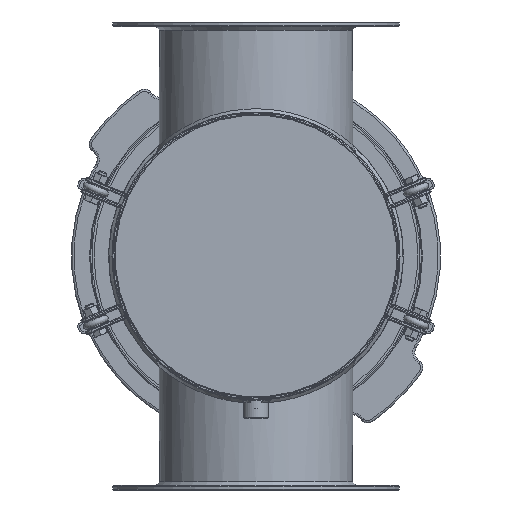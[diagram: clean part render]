
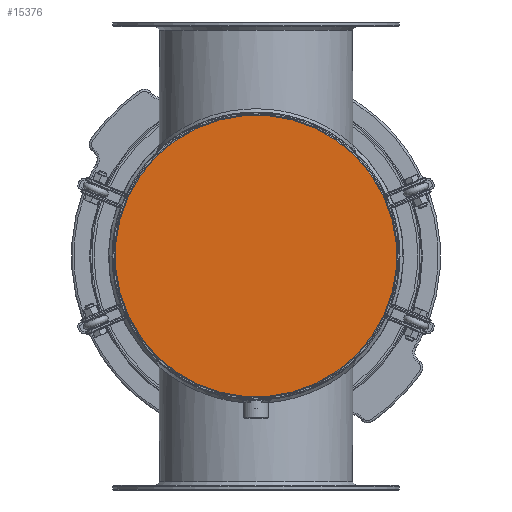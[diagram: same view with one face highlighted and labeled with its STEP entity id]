
A CAD part, front view. The second image highlights one B-rep face of the part: STEP entity #15376.
In plain terms, the highlighted planar face has unit normal (0, -1, 0).
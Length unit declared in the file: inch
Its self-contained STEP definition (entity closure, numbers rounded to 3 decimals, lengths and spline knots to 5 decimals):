
#1468=CIRCLE('',#16496,7.825);
#3141=FACE_OUTER_BOUND('',#4189,.T.);
#4189=EDGE_LOOP('',(#11098));
#7264=VERTEX_POINT('',#28069);
#8680=EDGE_CURVE('',#7264,#7264,#1468,.T.);
#11098=ORIENTED_EDGE('',*,*,#8680,.F.);
#15013=PLANE('',#16499);
#15376=ADVANCED_FACE('',(#3141),#15013,.F.);
#16496=AXIS2_PLACEMENT_3D('',#28070,#18983,#18984);
#16499=AXIS2_PLACEMENT_3D('',#28074,#18989,#18990);
#18983=DIRECTION('center_axis',(0.,1.,0.));
#18984=DIRECTION('ref_axis',(1.,0.,0.));
#18989=DIRECTION('center_axis',(0.,1.,0.));
#18990=DIRECTION('ref_axis',(0.,0.,1.));
#28069=CARTESIAN_POINT('',(-7.825,0.,0.));
#28070=CARTESIAN_POINT('Origin',(0.,0.,0.));
#28074=CARTESIAN_POINT('Origin',(0.,0.,0.));
